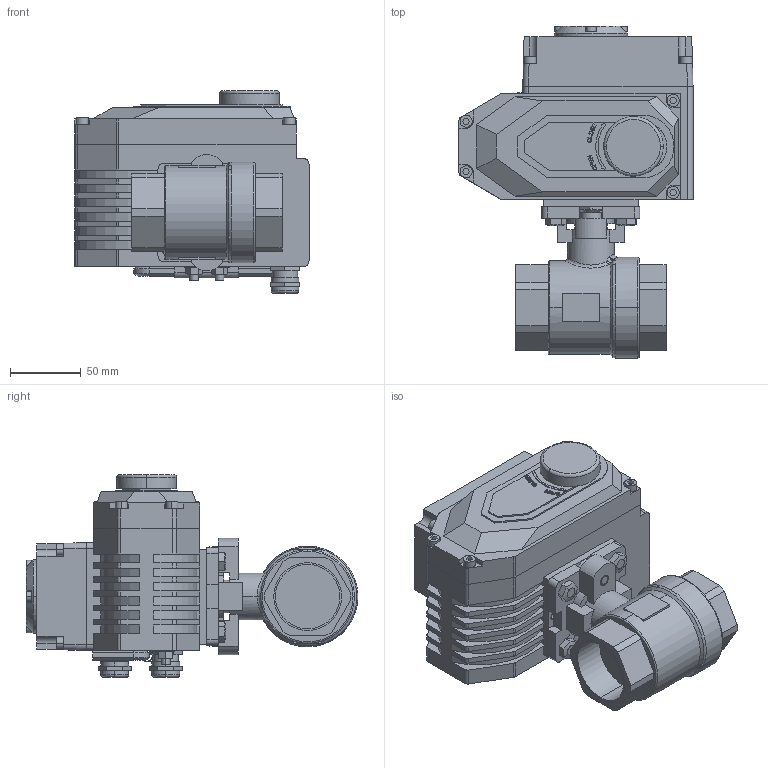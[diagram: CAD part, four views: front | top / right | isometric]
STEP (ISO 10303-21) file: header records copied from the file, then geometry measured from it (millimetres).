
FILE_DESCRIPTION((''),'2;1');
FILE_NAME('BV-21F_EAR_T_ASM','2025-03-02T',('AMD'),(''),'PRO/ENGINEER BY PARAMETRIC TECHNOLOGY CORPORATION, 2008020','PRO/ENGINEER BY PARAMETRIC TECHNOLOGY CORPORATION, 2008020','');
FILE_SCHEMA(('CONFIG_CONTROL_DESIGN'));
Length unit declared in the file: millimetre
Products named in the file (16): KORPUS_KRANA; SHAIBA_KRANA; VINT_KRANA; SB_KRAN_ASM; DET_1; V-11738-M5; V-11738-M4; DET_2; KREPLENIE; KLUCH; DET_3; G-5915-M6; ELECTROPRIVOD_ASM; ELECTROPRIVOD_WITH_DISPLAY_ASM; B-7798-M8-20; BV-21F_EAR_T_ASM
Assembly tree (30 placements, depth 4):
  BV-21F_EAR_T_ASM
    SB_KRAN_ASM
      KORPUS_KRANA
      SHAIBA_KRANA
      VINT_KRANA  x2
    ELECTROPRIVOD_WITH_DISPLAY_ASM
      ELECTROPRIVOD_ASM
        DET_1
        V-11738-M5  x8
        V-11738-M4  x4
        DET_2
        KREPLENIE
        KLUCH
        DET_3
        G-5915-M6  x2
    B-7798-M8-20  x4
Bounding box: 165 x 234 x 143 mm (x, y, z)
Volume: 1994369.2 mm3; surface area: 244811.8 mm2
Topology: 27 solids, 63 shells, 1316 faces, 3411 edges, 2232 vertices
Faces by surface type: plane 880, cylinder 330, cone 75, torus 19, bspline 12
Entity records: 33991 total; most frequent: CARTESIAN_POINT 6780, DIRECTION 5611, ORIENTED_EDGE 5506, EDGE_CURVE 2797, VECTOR 2091, LINE 2091, VERTEX_POINT 1841, AXIS2_PLACEMENT_3D 1760
